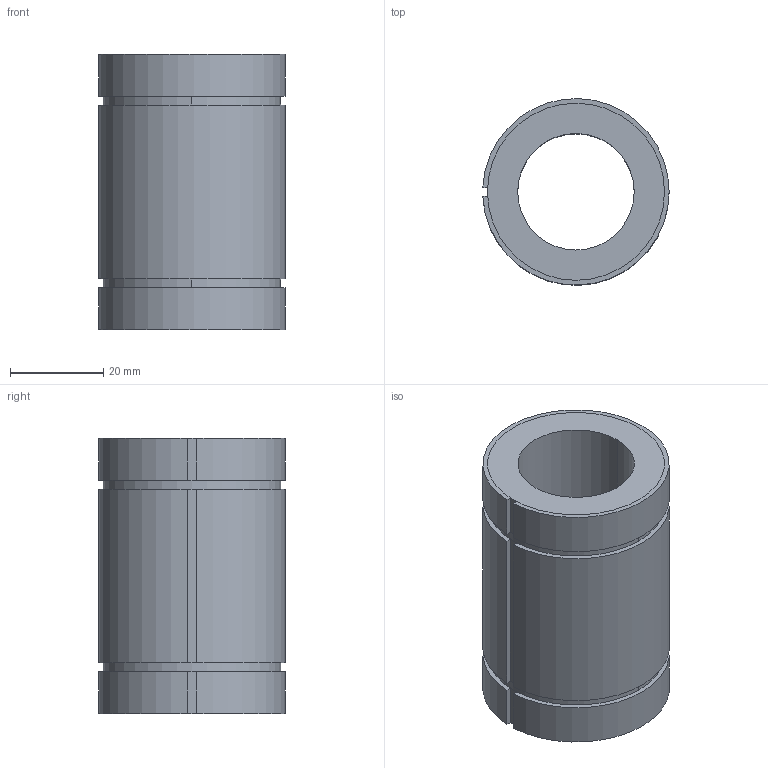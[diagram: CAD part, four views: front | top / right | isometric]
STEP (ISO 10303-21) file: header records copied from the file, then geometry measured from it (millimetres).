
FILE_DESCRIPTION((''),'2;1');
FILE_NAME('C:\Documents and Settings\ｿﾀﾀ蠑ｷ1\ｹﾙﾅﾁ ﾈｭｸ饅\ｺﾎﾇｰﾆﾄﾀﾏ\ﾁｦﾇｰ\LM__UUAJ\LM25UUAJ.stp','2005-06-14T16:25:23',('ｿﾀﾀ蠑ｷ1'),(''),'Autodesk Inventor 9','Autodesk Inventor 9','');
FILE_SCHEMA(('AUTOMOTIVE_DESIGN { 1 0 10303 214 1 1 1 1 }'));
Length unit declared in the file: millimetre
Products named in the file (1): LM__AJ
Bounding box: 39.98 x 39.99 x 59 mm (x, y, z)
Volume: 44617 mm3; surface area: 14142.3 mm2
Topology: 1 solids, 1 shells, 29 faces, 76 edges, 49 vertices
Faces by surface type: plane 17, cylinder 12
Entity records: 928 total; most frequent: DIRECTION 167, CARTESIAN_POINT 155, ORIENTED_EDGE 152, EDGE_CURVE 76, AXIS2_PLACEMENT_3D 61, VERTEX_POINT 49, VECTOR 45, LINE 45
